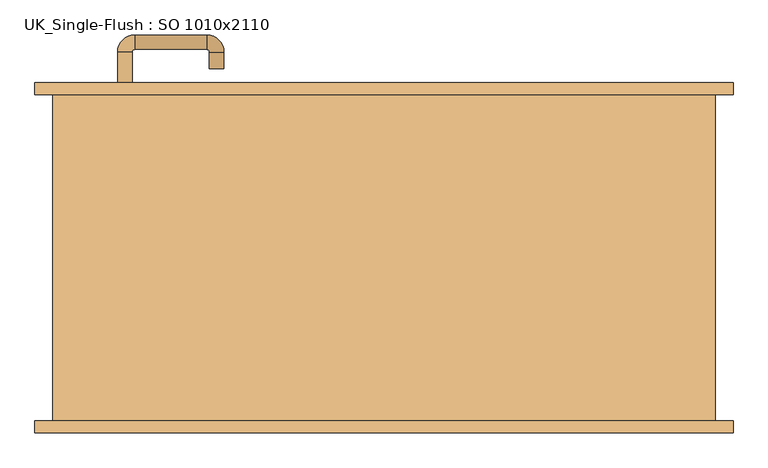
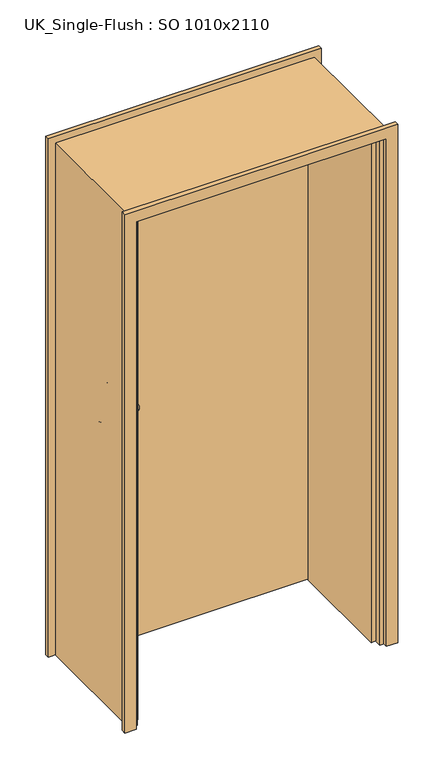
"""IFC4 building model written with IfcOpenShell, lengths in millimetres: door geometry, UK_Single-Flush : SO 1010x2110."""

from ifc_helpers import new_model, si_unit, point, frame, frame_2d, origin, place, context, project, spatial, polyline, circle_curve, ellipse_curve, trimmed, segment, composite_curve, outline, extrude, faceted_brep, source, transform, mapped, element, save
from ifc_brep_helpers import plane_surface, cylinder_surface, revolved_surface, advanced_brep


def uk_single_flush_so_1010x2110_7000c3c9(model_context):
    return source(origin(), model_context, "Body", "SolidModel", [
        faceted_brep([(-473.0, 202.0, 0.0), (-454.6719264, 202.0, 0.0), (-454.6719264, -221.0, 0.0), (-473.0, -221.0, 0.0), (-473.0, 202.0, 2078.0), (-454.6719264, 202.0, 2059.6719264), (-454.6719264, -221.0, 2059.6719264), (-473.0, -221.0, 2078.0), (473.0, 202.0, 2078.0), (454.6719264, 202.0, 2059.6719264), (454.6719264, -221.0, 2059.6719264), (473.0, -221.0, 2078.0), (473.0, 202.0, 0.0), (473.0, -221.0, 0.0), (454.6719264, -221.0, 0.0), (454.6719264, 202.0, 0.0)], [[[0, 1, 2, 3]], [[1, 0, 4, 5]], [[2, 1, 5, 6]], [[3, 2, 6, 7]], [[0, 3, 7, 4]], [[5, 4, 8, 9]], [[6, 5, 9, 10]], [[7, 6, 10, 11]], [[4, 7, 11, 8]], [[12, 13, 14, 15]], [[9, 8, 12, 15]], [[10, 9, 15, 14]], [[11, 10, 14, 13]], [[8, 11, 13, 12]]]),
        extrude(outline(polyline([(2137.0, 532.0), (2137.0, -532.0), (0.0, -532.0), (0.0, -488.0), (2093.0, -488.0), (2093.0, 488.0), (0.0, 488.0), (0.0, 532.0), (2137.0, 532.0)])), frame((0.0, 249.0, 0.0), z_axis=(0.0, 1.0, 0.0), x_axis=(0.0, 0.0, 1.0)), (0.0, 0.0, 1.0), 18.0),
        extrude(outline(polyline([(2137.0, -532.0), (0.0, -532.0), (0.0, -488.0), (2093.0, -488.0), (2093.0, 488.0), (0.0, 488.0), (0.0, 532.0), (2137.0, 532.0), (2137.0, -532.0)])), frame((0.0, -267.0, 0.0), z_axis=(0.0, 1.0, 0.0), x_axis=(0.0, 0.0, 1.0)), (0.0, 0.0, 1.0), 18.0),
        extrude(outline(polyline([(2110.0, -505.0), (0.0, -505.0), (0.0, -473.0), (2078.0, -473.0), (2078.0, 473.0), (0.0, 473.0), (0.0, 505.0), (2110.0, 505.0), (2110.0, -505.0)])), frame((0.0, -249.0, 0.0), z_axis=(0.0, 1.0, 0.0), x_axis=(0.0, 0.0, 1.0)), (0.0, 0.0, 1.0), 498.0),
        advanced_brep(
        [(-406.0, 195.0160352, 1003.0), (-384.0, 195.0160352, 1003.0), (-406.0, 140.0160352, 1003.0), (-384.0, 140.0160352, 1003.0), (-380.0, 136.0160352, 1003.0), (-380.0, 114.0160352, 1003.0), (-270.0, 114.0160352, 1003.0), (-270.0, 136.0160352, 1003.0), (-266.0, 140.0160352, 1003.0), (-244.0, 140.0160352, 1003.0), (-244.0, 165.0160352, 1003.0), (-266.0, 165.0160352, 1003.0)],
        [
            (0, 1, circle_curve(frame((-395.0, 195.0160352, 1003.0), z_axis=(0.0, 1.0, 0.0), x_axis=(1.0, 0.0, 0.0)), 11.0)),
            (1, 0, circle_curve(frame((-395.0, 195.0160352, 1003.0), z_axis=(0.0, 1.0, 0.0), x_axis=(1.0, 0.0, 0.0)), 11.0)),
            (0, 2),
            (2, 3, circle_curve(frame((-395.0, 140.0160352, 1003.0), z_axis=(0.0, 1.0, 0.0), x_axis=(1.0, 0.0, 0.0)), 11.0)),
            (3, 1),
            (3, 2, circle_curve(frame((-395.0, 140.0160352, 1003.0), z_axis=(0.0, 1.0, 0.0), x_axis=(1.0, 0.0, 0.0)), 11.0)),
            (4, 3, circle_curve(frame((-380.0, 140.0160352, 1003.0), z_axis=(0.0, 0.0, -1.0), x_axis=(-1.0, 0.0, 0.0)), 4.0)),
            (2, 5, circle_curve(frame((-380.0, 140.0160352, 1003.0), z_axis=(0.0, 0.0, 1.0), x_axis=(-1.0, 0.0, 0.0)), 26.0)),
            (5, 4, circle_curve(frame((-380.0, 125.0160352, 1003.0), z_axis=(-1.0, 0.0, 0.0), x_axis=(0.0, 1.0, 0.0)), 11.0)),
            (4, 5, circle_curve(frame((-380.0, 125.0160352, 1003.0), z_axis=(-1.0, 0.0, 0.0), x_axis=(0.0, 1.0, 0.0)), 11.0)),
            (5, 6),
            (6, 7, circle_curve(frame((-270.0, 125.0160352, 1003.0), z_axis=(-1.0, 0.0, 0.0), x_axis=(0.0, 1.0, 0.0)), 11.0)),
            (7, 4),
            (7, 6, circle_curve(frame((-270.0, 125.0160352, 1003.0), z_axis=(-1.0, 0.0, 0.0), x_axis=(0.0, 1.0, 0.0)), 11.0)),
            (8, 7, circle_curve(frame((-270.0, 140.0160352, 1003.0), z_axis=(0.0, 0.0, -1.0), x_axis=(0.0, -1.0, 0.0)), 4.0)),
            (6, 9, circle_curve(frame((-270.0, 140.0160352, 1003.0), z_axis=(0.0, 0.0, 1.0), x_axis=(0.0, -1.0, 0.0)), 26.0)),
            (9, 8, circle_curve(frame((-255.0, 140.0160352, 1003.0), z_axis=(0.0, -1.0, 0.0), x_axis=(-1.0, 0.0, 0.0)), 11.0)),
            (8, 9, circle_curve(frame((-255.0, 140.0160352, 1003.0), z_axis=(0.0, -1.0, 0.0), x_axis=(-1.0, 0.0, 0.0)), 11.0)),
            (10, 11, circle_curve(frame((-255.0, 165.0160352, 1003.0), z_axis=(0.0, 1.0, 0.0), x_axis=(-1.0, 0.0, 0.0)), 11.0)),
            (11, 10, circle_curve(frame((-255.0, 165.0160352, 1003.0), z_axis=(0.0, 1.0, 0.0), x_axis=(-1.0, 0.0, 0.0)), 11.0)),
            (9, 10),
            (11, 8),
        ],
        [
            plane_surface(frame((-406.0, 195.0160352, 1003.0), z_axis=(0.0, 1.0, 0.0), x_axis=(0.0, 0.0, -1.0))),
            cylinder_surface(frame((-395.0, 195.0160352, 1003.0), z_axis=(0.0, 1.0, 0.0), x_axis=(1.0, 0.0, 0.0)), 11.0),
            revolved_surface(trimmed(ellipse_curve(frame((-395.0, 140.0160352, 1003.0), z_axis=(0.0, 1.0, 0.0), x_axis=(1.0, 0.0, 0.0)), 11.0, 11.0), [point((-406.0, 140.0160352, 1003.0))], [point((-384.0, 140.0160352, 1003.0))], True, "CARTESIAN"), (-380.0, 140.0160352, 1003.0), (0.0, 0.0, 1.0)),
            revolved_surface(trimmed(ellipse_curve(frame((-395.0, 140.0160352, 1003.0), z_axis=(0.0, 1.0, 0.0), x_axis=(1.0, 0.0, 0.0)), 11.0, 11.0), [point((-384.0, 140.0160352, 1003.0))], [point((-406.0, 140.0160352, 1003.0))], True, "CARTESIAN"), (-380.0, 140.0160352, 1003.0), (0.0, 0.0, 1.0)),
            cylinder_surface(frame((-380.0, 125.0160352, 1003.0), z_axis=(-1.0, 0.0, 0.0), x_axis=(0.0, 1.0, 0.0)), 11.0),
            revolved_surface(trimmed(ellipse_curve(frame((-270.0, 125.0160352, 1003.0), z_axis=(-1.0, 0.0, 0.0), x_axis=(0.0, 1.0, 0.0)), 11.0, 11.0), [point((-270.0, 114.0160352, 1003.0))], [point((-270.0, 136.0160352, 1003.0))], True, "CARTESIAN"), (-270.0, 140.0160352, 1003.0), (0.0, 0.0, 1.0)),
            revolved_surface(trimmed(ellipse_curve(frame((-270.0, 125.0160352, 1003.0), z_axis=(-1.0, 0.0, 0.0), x_axis=(0.0, 1.0, 0.0)), 11.0, 11.0), [point((-270.0, 136.0160352, 1003.0))], [point((-270.0, 114.0160352, 1003.0))], True, "CARTESIAN"), (-270.0, 140.0160352, 1003.0), (0.0, 0.0, 1.0)),
            plane_surface(frame((-266.0, 165.0160352, 1003.0), z_axis=(0.0, 1.0, 0.0), x_axis=(0.0, 0.0, 1.0))),
            cylinder_surface(frame((-255.0, 140.0160352, 1003.0), z_axis=(0.0, -1.0, 0.0), x_axis=(-1.0, 0.0, 0.0)), 11.0),
        ],
        [
            (0, [[1, 2]]),
            (1, [[-1, 3, 4, 5]]),
            (1, [[-2, -5, 6, -3]]),
            (2, [[7, -4, 8, 9]]),
            (3, [[-8, -6, -7, 10]]),
            (4, [[-9, 11, 12, 13]]),
            (4, [[-10, -13, 14, -11]]),
            (5, [[15, -12, 16, 17]]),
            (6, [[-16, -14, -15, 18]]),
            (7, [[19, 20]]),
            (8, [[-17, 21, -20, 22]]),
            (8, [[-18, -22, -19, -21]]),
        ],
    ),
        extrude(outline(composite_curve([segment(trimmed(circle_curve(frame_2d((1003.0, -395.0)), 25.0), [point((1003.0, -420.0))], [point((1003.0, -370.0))], False, "CARTESIAN"), True, "CONTINUOUS"), segment(trimmed(circle_curve(frame_2d((1003.0, -395.0)), 25.0), [point((1003.0, -370.0))], [point((1003.0, -420.0))], False, "CARTESIAN"), True, "CONTINUOUS")], self_intersect=False)), frame((0.0, 195.0160352, 0.0), z_axis=(0.0, 1.0, 0.0), x_axis=(0.0, 0.0, 1.0)), (0.0, 0.0, 1.0), 9.9839648),
        advanced_brep(
        [(-384.0, 259.0, 1003.0), (-406.0, 259.0, 1003.0), (-384.0, 314.0, 1003.0), (-406.0, 314.0, 1003.0), (-380.0, 340.0, 1003.0), (-380.0, 318.0, 1003.0), (-270.0, 318.0, 1003.0), (-270.0, 340.0, 1003.0), (-244.0, 314.0, 1003.0), (-266.0, 314.0, 1003.0), (-266.0, 289.0, 1003.0), (-244.0, 289.0, 1003.0)],
        [
            (0, 1, circle_curve(frame((-395.0, 259.0, 1003.0), z_axis=(0.0, -1.0, 0.0), x_axis=(-1.0, 0.0, 0.0)), 11.0)),
            (1, 0, circle_curve(frame((-395.0, 259.0, 1003.0), z_axis=(0.0, -1.0, 0.0), x_axis=(-1.0, 0.0, 0.0)), 11.0)),
            (0, 2),
            (2, 3, circle_curve(frame((-395.0, 314.0, 1003.0), z_axis=(0.0, -1.0, 0.0), x_axis=(-1.0, 0.0, 0.0)), 11.0)),
            (3, 1),
            (3, 2, circle_curve(frame((-395.0, 314.0, 1003.0), z_axis=(0.0, -1.0, 0.0), x_axis=(-1.0, 0.0, 0.0)), 11.0)),
            (4, 3, circle_curve(frame((-380.0, 314.0, 1003.0), z_axis=(0.0, 0.0, 1.0), x_axis=(-1.0, 0.0, 0.0)), 26.0)),
            (2, 5, circle_curve(frame((-380.0, 314.0, 1003.0), z_axis=(0.0, 0.0, -1.0), x_axis=(-1.0, 0.0, 0.0)), 4.0)),
            (5, 4, circle_curve(frame((-380.0, 329.0, 1003.0), z_axis=(-1.0, 0.0, 0.0), x_axis=(0.0, 1.0, 0.0)), 11.0)),
            (4, 5, circle_curve(frame((-380.0, 329.0, 1003.0), z_axis=(-1.0, 0.0, 0.0), x_axis=(0.0, 1.0, 0.0)), 11.0)),
            (5, 6),
            (6, 7, circle_curve(frame((-270.0, 329.0, 1003.0), z_axis=(-1.0, 0.0, 0.0), x_axis=(0.0, 1.0, 0.0)), 11.0)),
            (7, 4),
            (7, 6, circle_curve(frame((-270.0, 329.0, 1003.0), z_axis=(-1.0, 0.0, 0.0), x_axis=(0.0, 1.0, 0.0)), 11.0)),
            (8, 7, circle_curve(frame((-270.0, 314.0, 1003.0), z_axis=(0.0, 0.0, 1.0), x_axis=(0.0, 1.0, 0.0)), 26.0)),
            (6, 9, circle_curve(frame((-270.0, 314.0, 1003.0), z_axis=(0.0, 0.0, -1.0), x_axis=(0.0, 1.0, 0.0)), 4.0)),
            (9, 8, circle_curve(frame((-255.0, 314.0, 1003.0), z_axis=(0.0, 1.0, 0.0), x_axis=(1.0, 0.0, 0.0)), 11.0)),
            (8, 9, circle_curve(frame((-255.0, 314.0, 1003.0), z_axis=(0.0, 1.0, 0.0), x_axis=(1.0, 0.0, 0.0)), 11.0)),
            (10, 11, circle_curve(frame((-255.0, 289.0, 1003.0), z_axis=(0.0, -1.0, 0.0), x_axis=(1.0, 0.0, 0.0)), 11.0)),
            (11, 10, circle_curve(frame((-255.0, 289.0, 1003.0), z_axis=(0.0, -1.0, 0.0), x_axis=(1.0, 0.0, 0.0)), 11.0)),
            (9, 10),
            (11, 8),
        ],
        [
            plane_surface(frame((-406.0, 259.0, 1003.0), z_axis=(0.0, -1.0, 0.0), x_axis=(0.0, 0.0, 1.0))),
            cylinder_surface(frame((-395.0, 259.0, 1003.0), z_axis=(0.0, -1.0, 0.0), x_axis=(-1.0, 0.0, 0.0)), 11.0),
            revolved_surface(trimmed(ellipse_curve(frame((-395.0, 314.0, 1003.0), z_axis=(0.0, -1.0, 0.0), x_axis=(-1.0, 0.0, 0.0)), 11.0, 11.0), [point((-384.0, 314.0, 1003.0))], [point((-406.0, 314.0, 1003.0))], True, "CARTESIAN"), (-380.0, 314.0, 1003.0), (0.0, 0.0, -1.0)),
            revolved_surface(trimmed(ellipse_curve(frame((-395.0, 314.0, 1003.0), z_axis=(0.0, -1.0, 0.0), x_axis=(-1.0, 0.0, 0.0)), 11.0, 11.0), [point((-406.0, 314.0, 1003.0))], [point((-384.0, 314.0, 1003.0))], True, "CARTESIAN"), (-380.0, 314.0, 1003.0), (0.0, 0.0, -1.0)),
            cylinder_surface(frame((-380.0, 329.0, 1003.0), z_axis=(-1.0, 0.0, 0.0), x_axis=(0.0, 1.0, 0.0)), 11.0),
            revolved_surface(trimmed(ellipse_curve(frame((-270.0, 329.0, 1003.0), z_axis=(-1.0, 0.0, 0.0), x_axis=(0.0, 1.0, 0.0)), 11.0, 11.0), [point((-270.0, 318.0, 1003.0))], [point((-270.0, 340.0, 1003.0))], True, "CARTESIAN"), (-270.0, 314.0, 1003.0), (0.0, 0.0, -1.0)),
            revolved_surface(trimmed(ellipse_curve(frame((-270.0, 329.0, 1003.0), z_axis=(-1.0, 0.0, 0.0), x_axis=(0.0, 1.0, 0.0)), 11.0, 11.0), [point((-270.0, 340.0, 1003.0))], [point((-270.0, 318.0, 1003.0))], True, "CARTESIAN"), (-270.0, 314.0, 1003.0), (0.0, 0.0, -1.0)),
            plane_surface(frame((-266.0, 289.0, 1003.0), z_axis=(0.0, -1.0, 0.0), x_axis=(0.0, 0.0, -1.0))),
            cylinder_surface(frame((-255.0, 314.0, 1003.0), z_axis=(0.0, 1.0, 0.0), x_axis=(1.0, 0.0, 0.0)), 11.0),
        ],
        [
            (0, [[1, 2]]),
            (1, [[-1, 3, 4, 5]]),
            (1, [[-2, -5, 6, -3]]),
            (2, [[7, -4, 8, 9]]),
            (3, [[-8, -6, -7, 10]]),
            (4, [[-9, 11, 12, 13]]),
            (4, [[-10, -13, 14, -11]]),
            (5, [[15, -12, 16, 17]]),
            (6, [[-16, -14, -15, 18]]),
            (7, [[19, 20]]),
            (8, [[-17, 21, -20, 22]]),
            (8, [[-18, -22, -19, -21]]),
        ],
    ),
        extrude(outline(composite_curve([segment(trimmed(circle_curve(frame_2d((1003.0, -395.0)), 25.0), [point((1003.0, -370.0))], [point((1003.0, -420.0))], False, "CARTESIAN"), True, "CONTINUOUS"), segment(trimmed(circle_curve(frame_2d((1003.0, -395.0)), 25.0), [point((1003.0, -420.0))], [point((1003.0, -370.0))], False, "CARTESIAN"), True, "CONTINUOUS")], self_intersect=False)), frame((0.0, 249.0, 0.0), z_axis=(0.0, 1.0, 0.0), x_axis=(0.0, 0.0, 1.0)), (0.0, 0.0, 1.0), 10.0),
        extrude(outline(polyline([(470.0, 205.0), (-470.0, 205.0), (-470.0, 249.0), (470.0, 249.0), (470.0, 205.0)])), frame((0.0, 0.0, 3.0), z_axis=(0.0, 0.0, 1.0), x_axis=(1.0, 0.0, 0.0)), (0.0, 0.0, 1.0), 2072.0),
    ])


if __name__ == "__main__":
    model = new_model("IFC4")
    model_context = context("Model", 3, world=origin())
    ifc_project = project(units=[si_unit("LENGTHUNIT", "METRE", prefix="MILLI")], contexts=[model_context])
    site = spatial("IfcSite", under=ifc_project)
    building = spatial("IfcBuilding", under=site)
    placement = place(None, origin())
    uk_single_flush_so_1010x2110_shape = uk_single_flush_so_1010x2110_7000c3c9(model_context)
    element("IfcDoor", 1, ObjectType="UK_Single-Flush : SO 1010x2110", at=placement, inside=building, context=model_context, shape_type="MappedRepresentation", body=[
        mapped(uk_single_flush_so_1010x2110_shape, transform((0.0, 0.0, 0.0), x_axis=(1.0, 0.0, 0.0), y_axis=(0.0, 1.0, 0.0), z_axis=(0.0, 0.0, 1.0))),
    ])
    save(model, "model.ifc")
